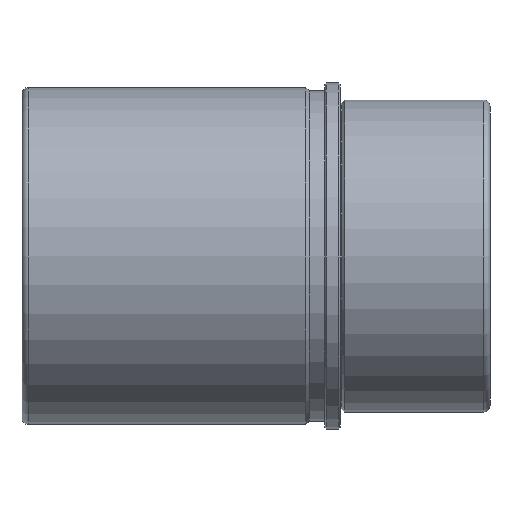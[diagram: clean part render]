
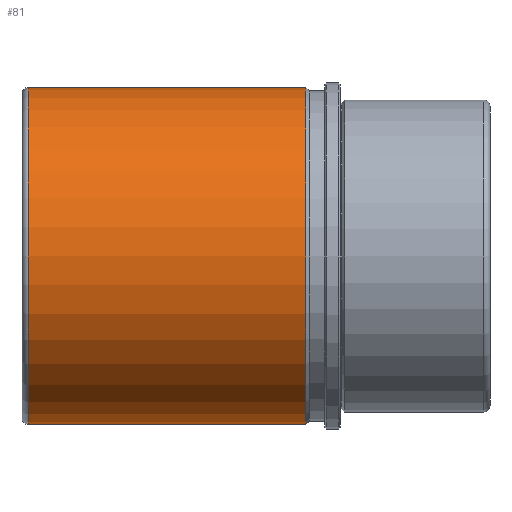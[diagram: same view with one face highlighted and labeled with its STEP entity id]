
A CAD part, front view. The second image highlights one B-rep face of the part: STEP entity #81.
In plain terms, the highlighted cylindrical face has radius 54 mm (diameter 108 mm), a full revolution.
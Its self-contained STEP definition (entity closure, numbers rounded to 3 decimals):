
#81 = ADVANCED_FACE( '', ( #176, #177, #178 ), #179, .T. );
#176 = FACE_OUTER_BOUND( '', #269, .T. );
#177 = FACE_BOUND( '', #270, .T. );
#178 = FACE_OUTER_BOUND( '', #271, .T. );
#179 = CYLINDRICAL_SURFACE( '', #272, 54. );
#269 = EDGE_LOOP( '', ( #392 ) );
#270 = EDGE_LOOP( '', ( #393 ) );
#271 = EDGE_LOOP( '', ( #394 ) );
#272 = AXIS2_PLACEMENT_3D( '', #395, #396, #397 );
#392 = ORIENTED_EDGE( '', *, *, #441, .T. );
#393 = ORIENTED_EDGE( '', *, *, #445, .T. );
#394 = ORIENTED_EDGE( '', *, *, #449, .F. );
#395 = CARTESIAN_POINT( '', ( 48., 0., 0. ) );
#396 = DIRECTION( '', ( -1., 0., 0. ) );
#397 = DIRECTION( '', ( 0., 0., -1. ) );
#441 = EDGE_CURVE( '', #501, #501, #502, .T. );
#445 = EDGE_CURVE( '', #507, #507, #508, .T. );
#449 = EDGE_CURVE( '', #513, #513, #514, .T. );
#501 = VERTEX_POINT( '', #566 );
#502 = CIRCLE( '', #567, 54. );
#507 = VERTEX_POINT( '', #637 );
#508 = B_SPLINE_CURVE_WITH_KNOTS( '', 3, ( #638, #639, #640, #641, #642, #643, #644, #645, #646, #647, #648, #649, #650, #651, #652, #653, #654, #655, #656, #657, #658, #659, #660, #661, #662, #663, #664, #665, #666, #667, #668, #669, #670, #671, #672, #673, #674, #675, #676, #677, #678, #679, #680, #681, #682, #683, #684, #685, #686, #687, #688, #689, #690, #691, #692, #693, #694, #695, #696, #697, #698, #699, #700, #701, #702, #703 ), .UNSPECIFIED., .T., .F., ( 2, 2, 2, 2, 2, 2, 2, 2, 2, 2, 2, 2, 2, 2, 2, 2, 2, 2, 2, 2, 2, 2, 2, 2, 2, 2, 2, 2, 2, 2, 2, 2, 2, 2, 2 ), ( -0.001, 0., 0.001, 0.002, 0.002, 0.003, 0.004, 0.005, 0.006, 0.007, 0.007, 0.008, 0.009, 0.01, 0.011, 0.011, 0.012, 0.013, 0.014, 0.015, 0.016, 0.016, 0.017, 0.018, 0.019, 0.02, 0.02, 0.021, 0.022, 0.023, 0.024, 0.025, 0.025, 0.026, 0.027 ), .UNSPECIFIED. );
#513 = VERTEX_POINT( '', #708 );
#514 = CIRCLE( '', #709, 54. );
#566 = CARTESIAN_POINT( '', ( -100., 0., -54. ) );
#567 = AXIS2_PLACEMENT_3D( '', #765, #766, #767 );
#637 = CARTESIAN_POINT( '', ( -18., 53.837, -4.188 ) );
#638 = CARTESIAN_POINT( '', ( -18.277, 53.837, -4.188 ) );
#639 = CARTESIAN_POINT( '', ( -17.723, 53.837, -4.188 ) );
#640 = CARTESIAN_POINT( '', ( -17.451, 53.839, -4.161 ) );
#641 = CARTESIAN_POINT( '', ( -16.916, 53.848, -4.054 ) );
#642 = CARTESIAN_POINT( '', ( -16.65, 53.854, -3.974 ) );
#643 = CARTESIAN_POINT( '', ( -16.143, 53.869, -3.764 ) );
#644 = CARTESIAN_POINT( '', ( -15.902, 53.878, -3.635 ) );
#645 = CARTESIAN_POINT( '', ( -15.447, 53.897, -3.331 ) );
#646 = CARTESIAN_POINT( '', ( -15.231, 53.908, -3.154 ) );
#647 = CARTESIAN_POINT( '', ( -14.845, 53.929, -2.768 ) );
#648 = CARTESIAN_POINT( '', ( -14.672, 53.94, -2.557 ) );
#649 = CARTESIAN_POINT( '', ( -14.366, 53.96, -2.099 ) );
#650 = CARTESIAN_POINT( '', ( -14.236, 53.969, -1.856 ) );
#651 = CARTESIAN_POINT( '', ( -14.027, 53.984, -1.352 ) );
#652 = CARTESIAN_POINT( '', ( -13.946, 53.99, -1.088 ) );
#653 = CARTESIAN_POINT( '', ( -13.839, 53.998, -0.547 ) );
#654 = CARTESIAN_POINT( '', ( -13.812, 54., -0.275 ) );
#655 = CARTESIAN_POINT( '', ( -13.812, 54., 0.271 ) );
#656 = CARTESIAN_POINT( '', ( -13.839, 53.998, 0.549 ) );
#657 = CARTESIAN_POINT( '', ( -13.946, 53.99, 1.086 ) );
#658 = CARTESIAN_POINT( '', ( -14.025, 53.984, 1.347 ) );
#659 = CARTESIAN_POINT( '', ( -14.235, 53.969, 1.854 ) );
#660 = CARTESIAN_POINT( '', ( -14.366, 53.96, 2.099 ) );
#661 = CARTESIAN_POINT( '', ( -14.669, 53.94, 2.553 ) );
#662 = CARTESIAN_POINT( '', ( -14.842, 53.93, 2.764 ) );
#663 = CARTESIAN_POINT( '', ( -15.233, 53.908, 3.156 ) );
#664 = CARTESIAN_POINT( '', ( -15.444, 53.898, 3.329 ) );
#665 = CARTESIAN_POINT( '', ( -15.898, 53.878, 3.632 ) );
#666 = CARTESIAN_POINT( '', ( -16.142, 53.869, 3.764 ) );
#667 = CARTESIAN_POINT( '', ( -16.65, 53.854, 3.974 ) );
#668 = CARTESIAN_POINT( '', ( -16.911, 53.848, 4.053 ) );
#669 = CARTESIAN_POINT( '', ( -17.447, 53.84, 4.16 ) );
#670 = CARTESIAN_POINT( '', ( -17.725, 53.837, 4.188 ) );
#671 = CARTESIAN_POINT( '', ( -18.272, 53.837, 4.188 ) );
#672 = CARTESIAN_POINT( '', ( -18.544, 53.839, 4.162 ) );
#673 = CARTESIAN_POINT( '', ( -19.084, 53.848, 4.055 ) );
#674 = CARTESIAN_POINT( '', ( -19.348, 53.854, 3.974 ) );
#675 = CARTESIAN_POINT( '', ( -19.853, 53.869, 3.766 ) );
#676 = CARTESIAN_POINT( '', ( -20.096, 53.878, 3.636 ) );
#677 = CARTESIAN_POINT( '', ( -20.554, 53.897, 3.33 ) );
#678 = CARTESIAN_POINT( '', ( -20.765, 53.908, 3.157 ) );
#679 = CARTESIAN_POINT( '', ( -21.152, 53.929, 2.771 ) );
#680 = CARTESIAN_POINT( '', ( -21.329, 53.94, 2.556 ) );
#681 = CARTESIAN_POINT( '', ( -21.633, 53.96, 2.101 ) );
#682 = CARTESIAN_POINT( '', ( -21.762, 53.969, 1.861 ) );
#683 = CARTESIAN_POINT( '', ( -21.973, 53.984, 1.354 ) );
#684 = CARTESIAN_POINT( '', ( -22.053, 53.99, 1.088 ) );
#685 = CARTESIAN_POINT( '', ( -22.16, 53.998, 0.553 ) );
#686 = CARTESIAN_POINT( '', ( -22.188, 54., 0.281 ) );
#687 = CARTESIAN_POINT( '', ( -22.188, 54., -0.272 ) );
#688 = CARTESIAN_POINT( '', ( -22.161, 53.998, -0.545 ) );
#689 = CARTESIAN_POINT( '', ( -22.055, 53.99, -1.081 ) );
#690 = CARTESIAN_POINT( '', ( -21.975, 53.984, -1.346 ) );
#691 = CARTESIAN_POINT( '', ( -21.765, 53.969, -1.854 ) );
#692 = CARTESIAN_POINT( '', ( -21.637, 53.96, -2.095 ) );
#693 = CARTESIAN_POINT( '', ( -21.333, 53.94, -2.55 ) );
#694 = CARTESIAN_POINT( '', ( -21.157, 53.929, -2.766 ) );
#695 = CARTESIAN_POINT( '', ( -20.771, 53.908, -3.152 ) );
#696 = CARTESIAN_POINT( '', ( -20.56, 53.898, -3.326 ) );
#697 = CARTESIAN_POINT( '', ( -20.103, 53.878, -3.632 ) );
#698 = CARTESIAN_POINT( '', ( -19.859, 53.869, -3.763 ) );
#699 = CARTESIAN_POINT( '', ( -19.355, 53.854, -3.972 ) );
#700 = CARTESIAN_POINT( '', ( -19.092, 53.848, -4.052 ) );
#701 = CARTESIAN_POINT( '', ( -18.551, 53.839, -4.161 ) );
#702 = CARTESIAN_POINT( '', ( -18.277, 53.837, -4.188 ) );
#703 = CARTESIAN_POINT( '', ( -17.723, 53.837, -4.188 ) );
#708 = CARTESIAN_POINT( '', ( -11., 0., -54. ) );
#709 = AXIS2_PLACEMENT_3D( '', #771, #772, #773 );
#765 = CARTESIAN_POINT( '', ( -100., 0., 0. ) );
#766 = DIRECTION( '', ( 1., 0., 0. ) );
#767 = DIRECTION( '', ( 0., 0., -1. ) );
#771 = CARTESIAN_POINT( '', ( -11., 0., 0. ) );
#772 = DIRECTION( '', ( 1., 0., 0. ) );
#773 = DIRECTION( '', ( 0., 0., -1. ) );
